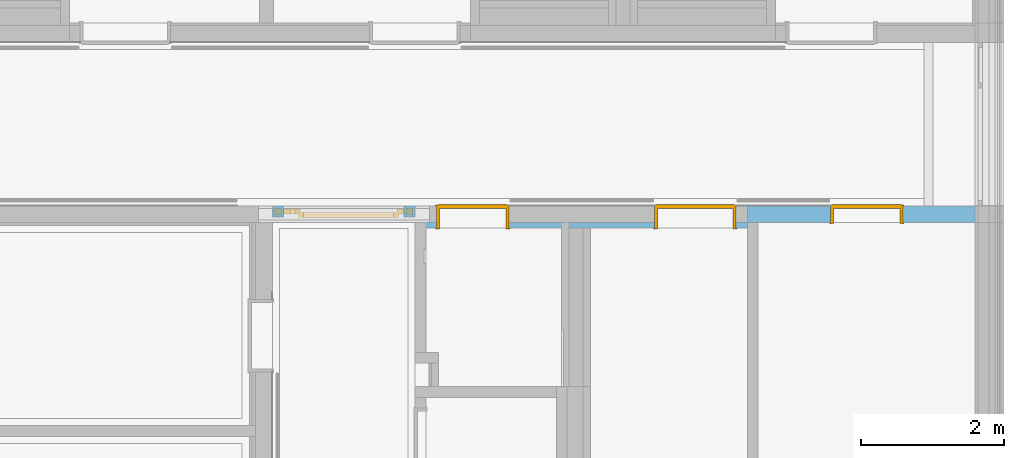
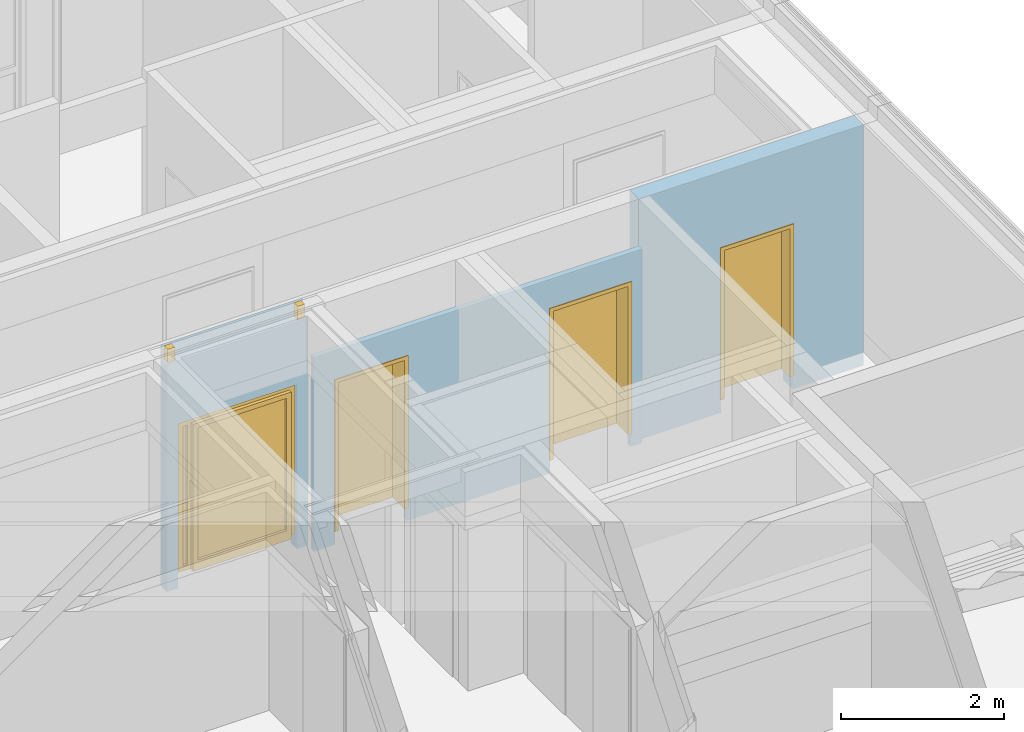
# One storey, part 144 of 207: 4 doors, 4 openings, plus 3 elements that do not belong to this part.
"""IFC4 building model written with IfcOpenShell, lengths in metres."""

from ifc_helpers import new_model, entity, si_unit, converted_unit, derived_unit, frame, frame_2d, origin, origin_with_axes, place, context, subcontext, project, spatial, polyline, rectangle, outline, extrude, clip, bounded_halfspace, closed_shell, open_shell, faceted_brep, surface_model, source, transform, mapped, material, type_object, element, fill, save


model = new_model("IFC4")

# Units and contexts
model_context = context("Model", 3, precision=1e-05, world=origin())
body_context = subcontext(model_context, "Body", "Model", "MODEL_VIEW")
ifc_project = project(units=[si_unit("LENGTHUNIT", "METRE"), si_unit("AREAUNIT", "SQUARE_METRE"), si_unit("VOLUMEUNIT", "CUBIC_METRE"), si_unit("MASSUNIT", "GRAM", prefix="KILO"), converted_unit("PLANEANGLEUNIT", "DEGREE", entity("IfcPlaneAngleMeasure", 0.0174532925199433), si_unit("PLANEANGLEUNIT", "RADIAN"), dimensions=[0, 0, 0, 0, 0, 0, 0]), derived_unit("THERMALTRANSMITTANCEUNIT", [(si_unit("POWERUNIT", "WATT"), 1), (si_unit("THERMODYNAMICTEMPERATUREUNIT", "KELVIN"), -1), (si_unit("LENGTHUNIT", "METRE"), -2)]), derived_unit("VOLUMETRICFLOWRATEUNIT", [(si_unit("LENGTHUNIT", "METRE"), 3), (converted_unit("TIMEUNIT", "hour", entity("IfcTimeMeasure", 3600.0), si_unit("TIMEUNIT", "SECOND"), dimensions=[0, 0, 1, 0, 0, 0, 0]), -1), (si_unit("LENGTHUNIT", "METRE"), -1)])], contexts=[model_context])

# Site, building, storey
site_placement = place(None, origin())
site = spatial("IfcSite", under=ifc_project, at=site_placement, Name="Psychiatrie Neubau Wunstorf", CompositionType="ELEMENT")
building_placement = place(site_placement, origin())
building = spatial("IfcBuilding", under=site, at=building_placement, Name="Neubau H2 Stationsgebäude", CompositionType="ELEMENT")
storey_placement = place(building_placement, frame((0.0, 0.0, -0.2)))
storey = spatial("IfcBuildingStorey", under=building, at=storey_placement, Name="H2 Ebene 0", CompositionType="ELEMENT", Elevation=-0.2)

# Wall, opening, door
ifc_material_1 = material(Name="WI-HW 60")
wall_1_placement = place(storey_placement, frame((102.710993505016, 22.6040000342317, 0.0), z_axis=(0.0, 0.0, 1.0), x_axis=(1.0, -1.07714356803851e-08, 0.0)))
wall_1 = element("IfcWall", 1, at=wall_1_placement, inside=storey, material=ifc_material_1, context=body_context, shape_type="SweptSolid", body=[
    extrude(outline(polyline([(0.150006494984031, 0.0), (3.17800649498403, 3.42316925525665e-08), (3.17800649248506, 0.232000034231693), (0.0, 0.232), (0.0, 3.42316925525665e-08), (0.150006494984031, 0.0)])), frame((0.0, -3.42316925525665e-08, 0.0), z_axis=(0.0, 0.0, 1.0), x_axis=(1.0, 0.0, 0.0)), (0.0, 0.0, 1.0), 3.6),
])
opening_1_placement = place(wall_1_placement, frame((1.16155181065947, -2.17201119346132e-08, 0.0), z_axis=(-1.07714358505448e-08, 1.0, 0.0), x_axis=(0.0, 0.0, 1.0)))
opening_1 = element("IfcOpeningElement", 2, at=opening_1_placement, cuts=wall_1, Name="SMT", ObjectType="Opening", context=body_context, shape_type="SweptSolid", body=[
    extrude(outline(polyline([(2.46, 1.01), (2.46, 0.0), (0.0, 0.0), (0.0, 1.01), (2.46, 1.01)])), origin_with_axes(), (0.0, 0.0, 1.0), 0.232),
])
ifc_material_2 = material(Name="TI-1F-UZ-ZK")
door_type_1 = type_object("IfcDoorType", Name="SMT", OperationType="SINGLE_SWING_RIGHT", ParameterTakesPrecedence=False, PredefinedType="DOOR")
shared_shape_1 = source(origin_with_axes(), body_context, "Body", "Brep", [
    faceted_brep([(1.01, -0.015, 2.46), (1.01, -0.015, 0.2), (0.97, -0.015, 0.2), (0.97, -0.015, 2.46), (1.01, 0.247, 0.2), (1.01, 0.247, 2.46), (0.97, 0.247, 2.46), (0.97, 0.247, 0.2)], [[[0, 1, 2, 3]], [[4, 5, 6, 7]], [[1, 0, 5, 4]], [[2, 1, 4, 7]], [[3, 2, 7, 6]], [[0, 3, 6, 5]]], orient=[[False], [False], [False], [False], [False], [False]]),
    faceted_brep([(1.01, -0.015, 2.475), (1.025, -0.015, 2.475), (1.025, -0.015, 0.2), (1.01, -0.015, 0.2), (1.01, 0.0, 0.2), (1.025, 0.0, 0.2), (1.025, 0.0, 2.475), (1.01, 0.0, 2.475)], [[[0, 1, 2, 3]], [[4, 5, 6, 7]], [[3, 4, 7, 0]], [[2, 5, 4, 3]], [[1, 6, 5, 2]], [[0, 7, 6, 1]]], orient=[[False], [False], [False], [False], [False], [False]]),
    faceted_brep([(1.01, 0.232, 2.475), (1.025, 0.232, 2.475), (1.025, 0.232, 0.2), (1.01, 0.232, 0.2), (1.01, 0.247, 0.2), (1.025, 0.247, 0.2), (1.025, 0.247, 2.475), (1.01, 0.247, 2.475)], [[[0, 1, 2, 3]], [[4, 5, 6, 7]], [[3, 4, 7, 0]], [[2, 5, 4, 3]], [[1, 6, 5, 2]], [[0, 7, 6, 1]]], orient=[[False], [False], [False], [False], [False], [False]]),
    faceted_brep([(0.04, -0.015, 2.46), (0.04, -0.015, 0.2), (0.0, -0.015, 0.2), (0.0, -0.015, 2.46), (0.04, 0.247, 0.2), (0.04, 0.247, 2.46), (0.0, 0.247, 2.46), (0.0, 0.247, 0.2)], [[[0, 1, 2, 3]], [[4, 5, 6, 7]], [[1, 0, 5, 4]], [[2, 1, 4, 7]], [[3, 2, 7, 6]], [[0, 3, 6, 5]]], orient=[[False], [False], [False], [False], [False], [False]]),
    faceted_brep([(0.0, -0.015, 2.475), (0.0, -0.015, 0.2), (-0.015, -0.015, 0.2), (-0.015, -0.015, 2.475), (0.0, 0.0, 0.2), (0.0, 0.0, 2.475), (-0.015, 0.0, 2.475), (-0.015, 0.0, 0.2)], [[[0, 1, 2, 3]], [[4, 5, 6, 7]], [[1, 0, 5, 4]], [[2, 1, 4, 7]], [[3, 2, 7, 6]], [[0, 3, 6, 5]]], orient=[[False], [False], [False], [False], [False], [False]]),
    faceted_brep([(0.0, 0.232, 2.475), (0.0, 0.232, 0.2), (-0.015, 0.232, 0.2), (-0.015, 0.232, 2.475), (0.0, 0.247, 0.2), (0.0, 0.247, 2.475), (-0.015, 0.247, 2.475), (-0.015, 0.247, 0.2)], [[[0, 1, 2, 3]], [[4, 5, 6, 7]], [[1, 0, 5, 4]], [[2, 1, 4, 7]], [[3, 2, 7, 6]], [[0, 3, 6, 5]]], orient=[[False], [False], [False], [False], [False], [False]]),
    faceted_brep([(0.97, -0.015, 2.46), (0.97, -0.015, 2.42), (0.04, -0.015, 2.42), (0.04, -0.015, 2.46), (0.97, 0.247, 2.42), (0.97, 0.247, 2.46), (0.04, 0.247, 2.46), (0.04, 0.247, 2.42)], [[[0, 1, 2, 3]], [[4, 5, 6, 7]], [[1, 0, 5, 4]], [[2, 1, 4, 7]], [[3, 2, 7, 6]], [[0, 3, 6, 5]]], orient=[[False], [False], [False], [False], [False], [False]]),
    faceted_brep([(1.01, -0.015, 2.475), (1.01, -0.015, 2.46), (0.0, -0.015, 2.46), (0.0, -0.015, 2.475), (1.01, 0.0, 2.46), (1.01, 0.0, 2.475), (0.0, 0.0, 2.475), (0.0, 0.0, 2.46)], [[[0, 1, 2, 3]], [[4, 5, 6, 7]], [[1, 0, 5, 4]], [[2, 1, 4, 7]], [[3, 2, 7, 6]], [[0, 3, 6, 5]]], orient=[[False], [False], [False], [False], [False], [False]]),
    faceted_brep([(1.01, 0.232, 2.475), (1.01, 0.232, 2.46), (0.0, 0.232, 2.46), (0.0, 0.232, 2.475), (1.01, 0.247, 2.46), (1.01, 0.247, 2.475), (0.0, 0.247, 2.475), (0.0, 0.247, 2.46)], [[[0, 1, 2, 3]], [[4, 5, 6, 7]], [[1, 0, 5, 4]], [[2, 1, 4, 7]], [[3, 2, 7, 6]], [[0, 3, 6, 5]]], orient=[[False], [False], [False], [False], [False], [False]]),
    faceted_brep([(0.985, 0.198, 2.435), (0.985, 0.198, 0.2), (0.025, 0.198, 0.2), (0.025, 0.198, 2.435), (0.985, 0.248, 0.2), (0.985, 0.248, 2.435), (0.025, 0.248, 2.435), (0.025, 0.248, 0.2)], [[[0, 1, 2, 3]], [[4, 5, 6, 7]], [[1, 0, 5, 4]], [[2, 1, 4, 7]], [[3, 2, 7, 6]], [[0, 3, 6, 5]]], orient=[[False], [False], [False], [False], [False], [False]]),
])
door_1_placement = place(opening_1_placement, frame((0.0, 0.0, 0.0), z_axis=(1.0, 0.0, 0.0), x_axis=(0.0, 1.0, -1.7015968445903e-16)))
door_1 = element("IfcDoor", 3, at=door_1_placement, inside=storey, type_object=door_type_1, material=ifc_material_2, Name="SMT", OverallHeight=2.46, OverallWidth=1.01, context=body_context, shape_type="MappedRepresentation", body=[
    mapped(shared_shape_1, transform((0.0, 0.0, 0.0), x_axis=(1.0, 0.0, 0.0), y_axis=(0.0, 1.0, 0.0), z_axis=(0.0, 0.0, 1.0), scale=1.0)),
])
fill(opening_1, door_1)

# Wall, openings, doors
ifc_material_3 = material(Name="WI-LB")
wall_2_placement = place(storey_placement, frame((98.075, 22.5290000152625, 0.0)))
wall_2 = element("IfcWall", 4, at=wall_2_placement, inside=storey, material=ifc_material_3, context=body_context, shape_type="SweptSolid", body=[
    extrude(rectangle(XDim=4.63599350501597, YDim=0.0749999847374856, at=frame_2d((2.31799675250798, 0.0374999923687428), x_axis=(1.0, 0.0))), origin_with_axes(), (0.0, 0.0, 1.0), 2.9),
])
opening_2_placement = place(wall_2_placement, frame((0.300006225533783, 0.0, 0.0), z_axis=(0.0, 1.0, 0.0), x_axis=(0.0, 0.0, 1.0)))
opening_2 = element("IfcOpeningElement", 5, at=opening_2_placement, cuts=wall_2, Name="Türöffnung", ObjectType="Opening", context=body_context, shape_type="SweptSolid", body=[
    extrude(outline(polyline([(2.46, 1.01), (2.46, 0.0), (0.0, 0.0), (0.0, 1.01), (2.46, 1.01)])), origin_with_axes(), (0.0, 0.0, 1.0), 0.0749999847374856),
])
opening_3_placement = place(wall_2_placement, frame((3.33999350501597, 0.0, 0.0), z_axis=(0.0, 1.0, 0.0), x_axis=(0.0, 0.0, 1.0)))
opening_3 = element("IfcOpeningElement", 6, at=opening_3_placement, cuts=wall_2, Name="Türöffnung", ObjectType="Opening", context=body_context, shape_type="SweptSolid", body=[
    extrude(outline(polyline([(2.46, 1.135), (2.46, 0.0), (0.0, 0.0), (0.0, 1.135), (2.46, 1.135)])), origin_with_axes(), (0.0, 0.0, 1.0), 0.0749999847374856),
])
ifc_material_4 = material(Name="TI-1F-UZ-ZK")
door_type_2 = type_object("IfcDoorType", Name="SMT", OperationType="SINGLE_SWING_RIGHT", ParameterTakesPrecedence=False, PredefinedType="DOOR")
shared_shape_2 = source(origin_with_axes(), body_context, "Body", "Brep", [
    faceted_brep([(0.0, -0.0150000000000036, 2.46), (0.04, -0.0150000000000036, 2.46), (0.04, -0.0150000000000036, 0.2), (0.0, -0.0150000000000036, 0.2), (0.0, 0.321999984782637, 0.2), (0.04, 0.321999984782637, 0.2), (0.04, 0.321999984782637, 2.46), (0.0, 0.321999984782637, 2.46)], [[[0, 1, 2, 3]], [[4, 5, 6, 7]], [[3, 4, 7, 0]], [[2, 5, 4, 3]], [[1, 6, 5, 2]], [[0, 7, 6, 1]]], orient=[[False], [False], [False], [False], [False], [False]]),
    faceted_brep([(0.0, -0.0150000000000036, 2.475), (0.0, -0.0150000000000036, 0.2), (-0.015, -0.0150000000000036, 0.2), (-0.015, -0.0150000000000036, 2.475), (0.0, 0.0, 0.2), (0.0, 0.0, 2.475), (-0.015, 0.0, 2.475), (-0.015, 0.0, 0.2)], [[[0, 1, 2, 3]], [[4, 5, 6, 7]], [[1, 0, 5, 4]], [[2, 1, 4, 7]], [[3, 2, 7, 6]], [[0, 3, 6, 5]]], orient=[[False], [False], [False], [False], [False], [False]]),
    faceted_brep([(0.0, 0.30699998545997, 2.475), (0.0, 0.30699998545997, 0.2), (-0.015, 0.30699998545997, 0.2), (-0.015, 0.30699998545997, 2.475), (0.0, 0.321999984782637, 0.2), (0.0, 0.321999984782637, 2.475), (-0.015, 0.321999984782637, 2.475), (-0.015, 0.321999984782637, 0.2)], [[[0, 1, 2, 3]], [[4, 5, 6, 7]], [[1, 0, 5, 4]], [[2, 1, 4, 7]], [[3, 2, 7, 6]], [[0, 3, 6, 5]]], orient=[[False], [False], [False], [False], [False], [False]]),
    faceted_brep([(0.97, -0.0150000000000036, 2.46), (1.01, -0.0150000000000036, 2.46), (1.01, -0.0150000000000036, 0.2), (0.97, -0.0150000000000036, 0.2), (0.97, 0.321999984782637, 0.2), (1.01, 0.321999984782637, 0.2), (1.01, 0.321999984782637, 2.46), (0.97, 0.321999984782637, 2.46)], [[[0, 1, 2, 3]], [[4, 5, 6, 7]], [[3, 4, 7, 0]], [[2, 5, 4, 3]], [[1, 6, 5, 2]], [[0, 7, 6, 1]]], orient=[[False], [False], [False], [False], [False], [False]]),
    faceted_brep([(1.01, -0.0150000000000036, 2.475), (1.025, -0.0150000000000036, 2.475), (1.025, -0.0150000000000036, 0.2), (1.01, -0.0150000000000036, 0.2), (1.01, 0.0, 0.2), (1.025, 0.0, 0.2), (1.025, 0.0, 2.475), (1.01, 0.0, 2.475)], [[[0, 1, 2, 3]], [[4, 5, 6, 7]], [[3, 4, 7, 0]], [[2, 5, 4, 3]], [[1, 6, 5, 2]], [[0, 7, 6, 1]]], orient=[[False], [False], [False], [False], [False], [False]]),
    faceted_brep([(1.01, 0.30699998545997, 2.475), (1.025, 0.30699998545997, 2.475), (1.025, 0.30699998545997, 0.2), (1.01, 0.30699998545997, 0.2), (1.01, 0.321999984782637, 0.2), (1.025, 0.321999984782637, 0.2), (1.025, 0.321999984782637, 2.475), (1.01, 0.321999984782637, 2.475)], [[[0, 1, 2, 3]], [[4, 5, 6, 7]], [[3, 4, 7, 0]], [[2, 5, 4, 3]], [[1, 6, 5, 2]], [[0, 7, 6, 1]]], orient=[[False], [False], [False], [False], [False], [False]]),
    faceted_brep([(0.04, -0.0150000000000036, 2.46), (0.97, -0.0150000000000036, 2.46), (0.97, -0.0150000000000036, 2.42), (0.04, -0.0150000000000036, 2.42), (0.04, 0.321999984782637, 2.42), (0.97, 0.321999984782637, 2.42), (0.97, 0.321999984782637, 2.46), (0.04, 0.321999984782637, 2.46)], [[[0, 1, 2, 3]], [[4, 5, 6, 7]], [[3, 4, 7, 0]], [[2, 5, 4, 3]], [[1, 6, 5, 2]], [[0, 7, 6, 1]]], orient=[[False], [False], [False], [False], [False], [False]]),
    faceted_brep([(0.0, -0.0150000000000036, 2.475), (1.01, -0.0150000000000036, 2.475), (1.01, -0.0150000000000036, 2.46), (0.0, -0.0150000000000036, 2.46), (0.0, 0.0, 2.46), (1.01, 0.0, 2.46), (1.01, 0.0, 2.475), (0.0, 0.0, 2.475)], [[[0, 1, 2, 3]], [[4, 5, 6, 7]], [[3, 4, 7, 0]], [[2, 5, 4, 3]], [[1, 6, 5, 2]], [[0, 7, 6, 1]]], orient=[[False], [False], [False], [False], [False], [False]]),
    faceted_brep([(0.0, 0.30699998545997, 2.475), (1.01, 0.30699998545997, 2.475), (1.01, 0.30699998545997, 2.46), (0.0, 0.30699998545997, 2.46), (0.0, 0.321999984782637, 2.46), (1.01, 0.321999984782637, 2.46), (1.01, 0.321999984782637, 2.475), (0.0, 0.321999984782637, 2.475)], [[[0, 1, 2, 3]], [[4, 5, 6, 7]], [[3, 4, 7, 0]], [[2, 5, 4, 3]], [[1, 6, 5, 2]], [[0, 7, 6, 1]]], orient=[[False], [False], [False], [False], [False], [False]]),
    faceted_brep([(0.025, 0.272999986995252, 2.435), (0.985, 0.272999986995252, 2.435), (0.985, 0.272999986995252, 0.2), (0.025, 0.272999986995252, 0.2), (0.025, 0.322999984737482, 0.2), (0.985, 0.322999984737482, 0.2), (0.985, 0.322999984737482, 2.435), (0.025, 0.322999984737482, 2.435)], [[[0, 1, 2, 3]], [[4, 5, 6, 7]], [[3, 4, 7, 0]], [[2, 5, 4, 3]], [[1, 6, 5, 2]], [[0, 7, 6, 1]]], orient=[[False], [False], [False], [False], [False], [False]]),
])
door_2_placement = place(opening_2_placement, frame((0.0, 0.0, 0.0), z_axis=(1.0, 0.0, 0.0), x_axis=(0.0, 1.0, 0.0)))
door_2 = element("IfcDoor", 7, at=door_2_placement, inside=storey, type_object=door_type_2, material=ifc_material_4, Name="SMT", OverallHeight=2.46, OverallWidth=1.01, context=body_context, shape_type="MappedRepresentation", body=[
    mapped(shared_shape_2, transform((0.0, 0.0, 0.0), x_axis=(1.0, 0.0, 0.0), y_axis=(0.0, 1.0, 0.0), z_axis=(0.0, 0.0, 1.0), scale=1.0)),
])
fill(opening_2, door_2)
ifc_material_5 = material(Name="TI-1F-UZ-D-N")
door_type_3 = type_object("IfcDoorType", Name="SMT", OperationType="SINGLE_SWING_RIGHT", ParameterTakesPrecedence=False, PredefinedType="DOOR")
shared_shape_3 = source(origin_with_axes(), body_context, "Body", "Brep", [
    faceted_brep([(1.135, -0.015, 2.46), (1.135, -0.015, 0.2), (1.095, -0.015, 0.2), (1.095, -0.015, 2.46), (1.135, 0.321999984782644, 0.2), (1.135, 0.321999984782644, 2.46), (1.095, 0.321999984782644, 2.46), (1.095, 0.321999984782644, 0.2)], [[[0, 1, 2, 3]], [[4, 5, 6, 7]], [[1, 0, 5, 4]], [[2, 1, 4, 7]], [[3, 2, 7, 6]], [[0, 3, 6, 5]]], orient=[[False], [False], [False], [False], [False], [False]]),
    faceted_brep([(1.135, -0.015, 2.475), (1.15, -0.015, 2.475), (1.15, -0.015, 0.2), (1.135, -0.015, 0.2), (1.135, 0.0, 0.2), (1.15, 0.0, 0.2), (1.15, 0.0, 2.475), (1.135, 0.0, 2.475)], [[[0, 1, 2, 3]], [[4, 5, 6, 7]], [[3, 4, 7, 0]], [[2, 5, 4, 3]], [[1, 6, 5, 2]], [[0, 7, 6, 1]]], orient=[[False], [False], [False], [False], [False], [False]]),
    faceted_brep([(1.135, 0.306999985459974, 2.475), (1.15, 0.306999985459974, 2.475), (1.15, 0.306999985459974, 0.2), (1.135, 0.306999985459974, 0.2), (1.135, 0.321999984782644, 0.2), (1.15, 0.321999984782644, 0.2), (1.15, 0.321999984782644, 2.475), (1.135, 0.321999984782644, 2.475)], [[[0, 1, 2, 3]], [[4, 5, 6, 7]], [[3, 4, 7, 0]], [[2, 5, 4, 3]], [[1, 6, 5, 2]], [[0, 7, 6, 1]]], orient=[[False], [False], [False], [False], [False], [False]]),
    faceted_brep([(0.04, -0.015, 2.46), (0.04, -0.015, 0.2), (0.0, -0.015, 0.2), (0.0, -0.015, 2.46), (0.04, 0.321999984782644, 0.2), (0.04, 0.321999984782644, 2.46), (0.0, 0.321999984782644, 2.46), (0.0, 0.321999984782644, 0.2)], [[[0, 1, 2, 3]], [[4, 5, 6, 7]], [[1, 0, 5, 4]], [[2, 1, 4, 7]], [[3, 2, 7, 6]], [[0, 3, 6, 5]]], orient=[[False], [False], [False], [False], [False], [False]]),
    faceted_brep([(0.0, -0.015, 2.475), (0.0, -0.015, 0.2), (-0.015, -0.015, 0.2), (-0.015, -0.015, 2.475), (0.0, 0.0, 0.2), (0.0, 0.0, 2.475), (-0.015, 0.0, 2.475), (-0.015, 0.0, 0.2)], [[[0, 1, 2, 3]], [[4, 5, 6, 7]], [[1, 0, 5, 4]], [[2, 1, 4, 7]], [[3, 2, 7, 6]], [[0, 3, 6, 5]]], orient=[[False], [False], [False], [False], [False], [False]]),
    faceted_brep([(0.0, 0.306999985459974, 2.475), (0.0, 0.306999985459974, 0.2), (-0.015, 0.306999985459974, 0.2), (-0.015, 0.306999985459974, 2.475), (0.0, 0.321999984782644, 0.2), (0.0, 0.321999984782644, 2.475), (-0.015, 0.321999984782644, 2.475), (-0.015, 0.321999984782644, 0.2)], [[[0, 1, 2, 3]], [[4, 5, 6, 7]], [[1, 0, 5, 4]], [[2, 1, 4, 7]], [[3, 2, 7, 6]], [[0, 3, 6, 5]]], orient=[[False], [False], [False], [False], [False], [False]]),
    faceted_brep([(1.095, -0.015, 2.46), (1.095, -0.015, 2.42), (0.04, -0.015, 2.42), (0.04, -0.015, 2.46), (1.095, 0.321999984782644, 2.42), (1.095, 0.321999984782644, 2.46), (0.04, 0.321999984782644, 2.46), (0.04, 0.321999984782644, 2.42)], [[[0, 1, 2, 3]], [[4, 5, 6, 7]], [[1, 0, 5, 4]], [[2, 1, 4, 7]], [[3, 2, 7, 6]], [[0, 3, 6, 5]]], orient=[[False], [False], [False], [False], [False], [False]]),
    faceted_brep([(1.135, -0.015, 2.475), (1.135, -0.015, 2.46), (0.0, -0.015, 2.46), (0.0, -0.015, 2.475), (1.135, 0.0, 2.46), (1.135, 0.0, 2.475), (0.0, 0.0, 2.475), (0.0, 0.0, 2.46)], [[[0, 1, 2, 3]], [[4, 5, 6, 7]], [[1, 0, 5, 4]], [[2, 1, 4, 7]], [[3, 2, 7, 6]], [[0, 3, 6, 5]]], orient=[[False], [False], [False], [False], [False], [False]]),
    faceted_brep([(1.135, 0.306999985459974, 2.475), (1.135, 0.306999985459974, 2.46), (0.0, 0.306999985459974, 2.46), (0.0, 0.306999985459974, 2.475), (1.135, 0.321999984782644, 2.46), (1.135, 0.321999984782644, 2.475), (0.0, 0.321999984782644, 2.475), (0.0, 0.321999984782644, 2.46)], [[[0, 1, 2, 3]], [[4, 5, 6, 7]], [[1, 0, 5, 4]], [[2, 1, 4, 7]], [[3, 2, 7, 6]], [[0, 3, 6, 5]]], orient=[[False], [False], [False], [False], [False], [False]]),
    faceted_brep([(1.11, 0.272999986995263, 2.435), (1.11, 0.272999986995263, 0.2), (0.025, 0.272999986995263, 0.2), (0.025, 0.272999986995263, 2.435), (1.11, 0.322999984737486, 0.2), (1.11, 0.322999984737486, 2.435), (0.025, 0.322999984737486, 2.435), (0.025, 0.322999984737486, 0.2)], [[[0, 1, 2, 3]], [[4, 5, 6, 7]], [[1, 0, 5, 4]], [[2, 1, 4, 7]], [[3, 2, 7, 6]], [[0, 3, 6, 5]]], orient=[[False], [False], [False], [False], [False], [False]]),
])
door_3_placement = place(opening_3_placement, frame((0.0, 0.0, 0.0), z_axis=(1.0, 0.0, 0.0), x_axis=(0.0, 1.0, 0.0)))
door_3 = element("IfcDoor", 8, at=door_3_placement, inside=storey, type_object=door_type_3, material=ifc_material_5, Name="SMT", OverallHeight=2.46, OverallWidth=1.135, context=body_context, shape_type="MappedRepresentation", body=[
    mapped(shared_shape_3, transform((0.0, 0.0, 0.0), x_axis=(1.0, 0.0, 0.0), y_axis=(0.0, 1.0, 0.0), z_axis=(0.0, 0.0, 1.0), scale=1.0)),
])
fill(opening_3, door_3)

# Wall, opening, door
ifc_material_6 = material(Name="WI-LB")
wall_3_placement = place(storey_placement, frame((96.0824999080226, 22.681, 0.0)))
wall_3 = element("IfcWall", 9, at=wall_3_placement, inside=storey, material=ifc_material_6, context=body_context, shape_type="Clipping", body=[
    clip(extrude(rectangle(XDim=1.99250000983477, YDim=0.155, at=frame_2d((0.996250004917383, 0.0775), x_axis=(1.0, 0.0))), origin_with_axes(), (0.0, 0.0, 1.0), 3.6), bounded_halfspace(frame((0.996250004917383, 0.059499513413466, 3.4), z_axis=(0.0, 0.0, -1.0), x_axis=(-1.0, 0.0, 0.0)), True, origin_with_axes(), polyline([(1.99250000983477, 0.118999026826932), (0.0, 0.118999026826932), (0.0, 0.0), (1.99250000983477, 0.0), (1.99250000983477, 0.118999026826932)]))),
])
opening_4_placement = place(wall_3_placement, frame((1.83750000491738, 0.155, 0.0), z_axis=(0.0, -1.0, 0.0), x_axis=(0.0, 0.0, 1.0)))
opening_4 = element("IfcOpeningElement", 10, at=opening_4_placement, cuts=wall_3, Name="Türöffnung", ObjectType="Opening", context=body_context, shape_type="SweptSolid", body=[
    extrude(outline(polyline([(2.46, 1.6825), (2.46, 0.0), (0.0, 0.0), (0.0, 1.6825), (2.46, 1.6825)])), origin_with_axes(), (0.0, 0.0, 1.0), 0.155),
])
ifc_material_7 = material(Name="TI-2F-AG-D-O")
door_type_4 = type_object("IfcDoorType", Name="SMT", OperationType="NOTDEFINED", ParameterTakesPrecedence=False, PredefinedType="DOOR")
shared_shape_4 = source(origin_with_axes(), body_context, "Body", "Brep", [
    faceted_brep([(1.81, 0.0275, 0.0), (1.81, 0.1275, 0.0), (1.71, 0.1275, 0.0), (1.71, 0.0275, 0.0), (1.81, 0.1275, 3.6), (1.81, 0.0275, 3.6), (1.71, 0.0275, 3.6), (1.71, 0.1275, 3.6)], [[[0, 1, 2, 3]], [[4, 5, 6, 7]], [[1, 0, 5, 4]], [[2, 1, 4, 7]], [[3, 2, 7, 6]], [[0, 3, 6, 5]]], orient=[[False], [False], [False], [False], [False], [False]]),
    faceted_brep([(-0.0275, 0.0275, 0.0), (-0.0275, 0.1275, 0.0), (-0.1275, 0.1275, 0.0), (-0.1275, 0.0275, 0.0), (-0.0275, 0.1275, 3.6), (-0.0275, 0.0275, 3.6), (-0.1275, 0.0275, 3.6), (-0.1275, 0.1275, 3.6)], [[[0, 1, 2, 3]], [[4, 5, 6, 7]], [[1, 0, 5, 4]], [[2, 1, 4, 7]], [[3, 2, 7, 6]], [[0, 3, 6, 5]]], orient=[[False], [False], [False], [False], [False], [False]]),
    faceted_brep([(1.71, 0.0275, 2.4875), (1.71, 0.1275, 2.4875), (-0.0275, 0.1275, 2.4875), (-0.0275, 0.0275, 2.4875), (1.71, 0.1275, 2.5875), (1.71, 0.0275, 2.5875), (-0.0275, 0.0275, 2.5875), (-0.0275, 0.1275, 2.5875)], [[[0, 1, 2, 3]], [[4, 5, 6, 7]], [[1, 0, 5, 4]], [[2, 1, 4, 7]], [[3, 2, 7, 6]], [[0, 3, 6, 5]]], orient=[[False], [False], [False], [False], [False], [False]]),
])
shared_shape_5 = source(origin_with_axes(), body_context, "Body", "SurfaceModel", [
    surface_model("IfcShellBasedSurfaceModel", [(1.6825, 0.0425, 2.46), (1.6825, 0.0425, 0.2), (1.5825, 0.0425, 0.2), (1.5825, 0.0425, 2.46), (1.6825, 0.1125, 0.2), (1.6825, 0.1125, 2.46), (1.5825, 0.1125, 2.46), (1.5825, 0.1125, 0.2)], [closed_shell([[[0, 1, 2, 3]], [[4, 5, 6, 7]], [[1, 0, 5, 4]], [[2, 1, 4, 7]], [[3, 2, 7, 6]], [[0, 3, 6, 5]]], orient=[[False], [False], [False], [False], [False], [False]])]),
    surface_model("IfcShellBasedSurfaceModel", [(0.1, 0.0425, 2.46), (0.1, 0.0425, 0.2), (0.0, 0.0425, 0.2), (0.0, 0.0425, 2.46), (0.1, 0.1125, 0.2), (0.1, 0.1125, 2.46), (0.0, 0.1125, 2.46), (0.0, 0.1125, 0.2)], [closed_shell([[[0, 1, 2, 3]], [[4, 5, 6, 7]], [[1, 0, 5, 4]], [[2, 1, 4, 7]], [[3, 2, 7, 6]], [[0, 3, 6, 5]]], orient=[[False], [False], [False], [False], [False], [False]])]),
    surface_model("IfcShellBasedSurfaceModel", [(1.5825, 0.0425, 2.46), (1.5825, 0.0425, 2.36), (0.1, 0.0425, 2.36), (0.1, 0.0425, 2.46), (1.5825, 0.1125, 2.36), (1.5825, 0.1125, 2.46), (0.1, 0.1125, 2.46), (0.1, 0.1125, 2.36)], [closed_shell([[[0, 1, 2, 3]], [[4, 5, 6, 7]], [[1, 0, 5, 4]], [[2, 1, 4, 7]], [[3, 2, 7, 6]], [[0, 3, 6, 5]]], orient=[[False], [False], [False], [False], [False], [False]])]),
    surface_model("IfcShellBasedSurfaceModel", [(1.52, 0.0425, 2.36), (1.52, 0.0425, 0.2), (1.45, 0.0425, 0.2), (1.45, 0.0425, 2.36), (1.52, 0.1125, 0.2), (1.52, 0.1125, 2.36), (1.45, 0.1125, 2.36), (1.45, 0.1125, 0.2)], [closed_shell([[[0, 1, 2, 3]], [[4, 5, 6, 7]], [[1, 0, 5, 4]], [[2, 1, 4, 7]], [[3, 2, 7, 6]], [[0, 3, 6, 5]]], orient=[[False], [False], [False], [False], [False], [False]])]),
    surface_model("IfcShellBasedSurfaceModel", [(1.5825, 0.0425, 0.27), (1.5825, 0.0425, 0.2), (1.52, 0.0425, 0.2), (1.52, 0.0425, 0.27), (1.5825, 0.1125, 0.2), (1.5825, 0.1125, 0.27), (1.52, 0.1125, 0.27), (1.52, 0.1125, 0.2)], [closed_shell([[[0, 1, 2, 3]], [[4, 5, 6, 7]], [[1, 0, 5, 4]], [[2, 1, 4, 7]], [[3, 2, 7, 6]], [[0, 3, 6, 5]]], orient=[[False], [False], [False], [False], [False], [False]])]),
    surface_model("IfcShellBasedSurfaceModel", [(1.47, 0.0925, 2.38), (1.47, 0.0925, 0.18), (1.4, 0.0925, 0.18), (1.4, 0.0925, 2.38), (1.47, 0.1625, 0.18), (1.47, 0.1625, 2.38), (1.4, 0.1625, 2.38), (1.4, 0.1625, 0.18)], [closed_shell([[[0, 1, 2, 3]], [[4, 5, 6, 7]], [[1, 0, 5, 4]], [[2, 1, 4, 7]], [[3, 2, 7, 6]], [[0, 3, 6, 5]]], orient=[[False], [False], [False], [False], [False], [False]])]),
    surface_model("IfcShellBasedSurfaceModel", [(0.15, 0.0925, 2.38), (0.15, 0.0925, 0.18), (0.08, 0.0925, 0.18), (0.08, 0.0925, 2.38), (0.15, 0.1625, 0.18), (0.15, 0.1625, 2.38), (0.08, 0.1625, 2.38), (0.08, 0.1625, 0.18)], [closed_shell([[[0, 1, 2, 3]], [[4, 5, 6, 7]], [[1, 0, 5, 4]], [[2, 1, 4, 7]], [[3, 2, 7, 6]], [[0, 3, 6, 5]]], orient=[[False], [False], [False], [False], [False], [False]])]),
    surface_model("IfcShellBasedSurfaceModel", [(1.4, 0.0925, 0.33), (1.4, 0.0925, 0.18), (0.15, 0.0925, 0.18), (0.15, 0.0925, 0.33), (1.4, 0.1625, 0.18), (1.4, 0.1625, 0.33), (0.15, 0.1625, 0.33), (0.15, 0.1625, 0.18)], [closed_shell([[[0, 1, 2, 3]], [[4, 5, 6, 7]], [[1, 0, 5, 4]], [[2, 1, 4, 7]], [[3, 2, 7, 6]], [[0, 3, 6, 5]]], orient=[[False], [False], [False], [False], [False], [False]])]),
    surface_model("IfcShellBasedSurfaceModel", [(1.4, 0.0925, 2.38), (1.4, 0.0925, 2.31), (0.15, 0.0925, 2.31), (0.15, 0.0925, 2.38), (1.4, 0.1625, 2.31), (1.4, 0.1625, 2.38), (0.15, 0.1625, 2.38), (0.15, 0.1625, 2.31)], [closed_shell([[[0, 1, 2, 3]], [[4, 5, 6, 7]], [[1, 0, 5, 4]], [[2, 1, 4, 7]], [[3, 2, 7, 6]], [[0, 3, 6, 5]]], orient=[[False], [False], [False], [False], [False], [False]])]),
    surface_model("IfcShellBasedSurfaceModel", [(1.4, 0.1275, 0.33), (0.15, 0.1275, 0.33), (0.15, 0.1275, 2.31), (1.4, 0.1275, 2.31)], [open_shell([[[0, 1, 2, 3]]], orient=[[False]])]),
    surface_model("IfcShellBasedSurfaceModel", [(1.5825, 0.0775, 0.27), (1.52, 0.0775, 0.27), (1.52, 0.0775, 2.36), (1.5825, 0.0775, 2.36)], [open_shell([[[0, 1, 2, 3]]], orient=[[False]])]),
])
door_4_placement = place(opening_4_placement, frame((0.0, 0.0, 0.0), z_axis=(1.0, 0.0, 0.0), x_axis=(0.0, 1.0, 0.0)))
door_4 = element("IfcDoor", 11, at=door_4_placement, inside=storey, type_object=door_type_4, material=ifc_material_7, Name="SMT", OverallHeight=2.46, OverallWidth=1.6825, context=body_context, shape_type="MappedRepresentation", body=[
    mapped(shared_shape_4, transform((0.0, 0.0, 0.0), x_axis=(1.0, 0.0, 0.0), y_axis=(0.0, 1.0, 0.0), z_axis=(0.0, 0.0, 1.0), scale=1.0)),
    mapped(shared_shape_5, transform((0.0, 0.0, 0.0), x_axis=(1.0, 0.0, 0.0), y_axis=(0.0, 1.0, 0.0), z_axis=(0.0, 0.0, 1.0), scale=1.0)),
])
fill(opening_4, door_4)

save(model, "model.ifc")
